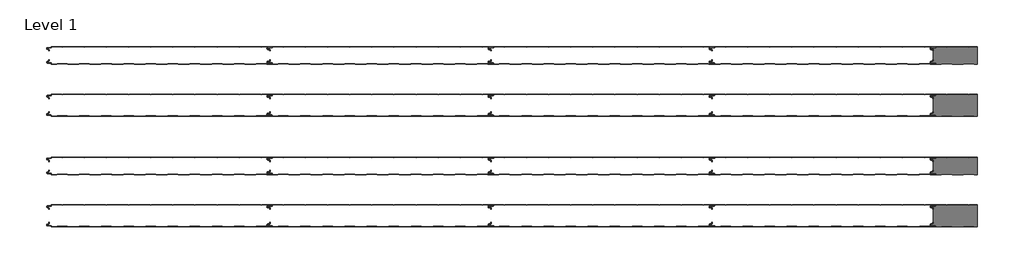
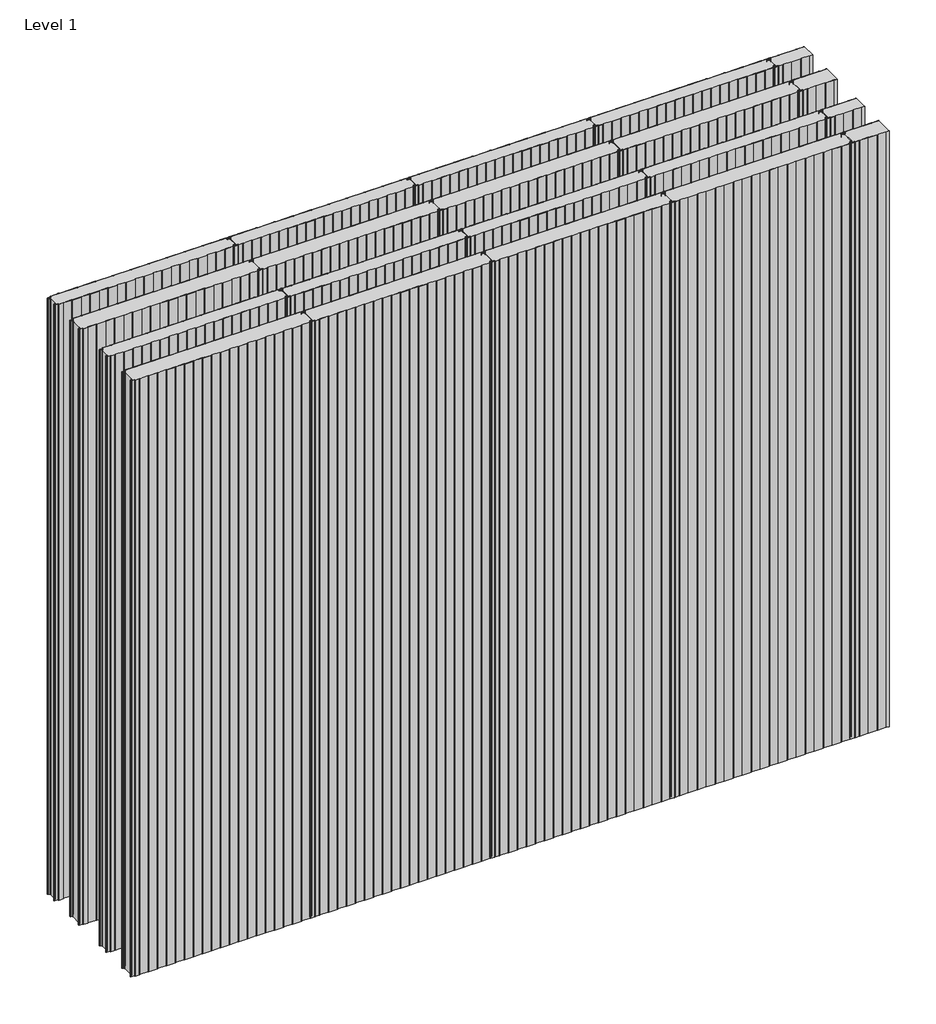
# One storey: 20 plates.
"""IFC4 building model written with IfcOpenShell, lengths in millimetres."""

from ifc_helpers import new_model, si_unit, origin, place, context, project, spatial, transform, mapped, element, save
from components import acoustic_screens_and_barriers_pane_curtain_panel_ach_03b74a93, acoustic_screens_and_barriers_pane_curtain_panel_ach_00faa93f, acoustic_screens_and_barriers_pane_curtain_panel_ach_dfdb3345, acoustic_screens_and_barriers_pane_curtain_panel_ach_0afa90e4

model = new_model("IFC4")

# Units and contexts
model_context = context("Model", 3, world=origin())
ifc_project = project(units=[si_unit("LENGTHUNIT", "METRE", prefix="MILLI")], contexts=[model_context])

# Site, building, storey
site = spatial("IfcSite", under=ifc_project)
building = spatial("IfcBuilding", under=site)
storey = spatial("IfcBuildingStorey", under=building, Name="Level 1", Elevation=0.0)

# Plates
placement = place(None, origin())
acoustic_screens_and_barriers_pane_curtain_panel_ach_shape = acoustic_screens_and_barriers_pane_curtain_panel_ach_03b74a93(model_context)
element("IfcPlate", 1, ObjectType="Acoustic-Screens-And-Barriers-Pane_Curtain-Panel : ACH_Acoustic-Screens-And-Barriers-Panel_Superwind_80mm", at=placement, inside=storey, context=model_context, shape_type="MappedRepresentation", body=[
    mapped(acoustic_screens_and_barriers_pane_curtain_panel_ach_shape, transform((-10804.4132588, 520.6868121, 0.0), x_axis=(1.0, 0.0, 0.0), y_axis=(0.0, 1.0, 0.0), z_axis=(0.0, 0.0, 1.0))),
])
element("IfcPlate", 2, ObjectType="Acoustic-Screens-And-Barriers-Pane_Curtain-Panel : ACH_Acoustic-Screens-And-Barriers-Panel_Superwind_80mm", at=placement, inside=storey, context=model_context, shape_type="MappedRepresentation", body=[
    mapped(acoustic_screens_and_barriers_pane_curtain_panel_ach_shape, transform((-9804.4132588, 520.6868121, 0.0), x_axis=(1.0, 0.0, 0.0), y_axis=(0.0, 1.0, 0.0), z_axis=(0.0, 0.0, 1.0))),
])
element("IfcPlate", 3, ObjectType="Acoustic-Screens-And-Barriers-Pane_Curtain-Panel : ACH_Acoustic-Screens-And-Barriers-Panel_Superwind_80mm", at=placement, inside=storey, context=model_context, shape_type="MappedRepresentation", body=[
    mapped(acoustic_screens_and_barriers_pane_curtain_panel_ach_shape, transform((-8804.4132588, 520.6868121, 0.0), x_axis=(1.0, 0.0, 0.0), y_axis=(0.0, 1.0, 0.0), z_axis=(0.0, 0.0, 1.0))),
])
element("IfcPlate", 4, ObjectType="Acoustic-Screens-And-Barriers-Pane_Curtain-Panel : ACH_Acoustic-Screens-And-Barriers-Panel_Superwind_80mm", at=placement, inside=storey, context=model_context, shape_type="MappedRepresentation", body=[
    mapped(acoustic_screens_and_barriers_pane_curtain_panel_ach_shape, transform((-7804.4132588, 520.6868121, 0.0), x_axis=(1.0, 0.0, 0.0), y_axis=(0.0, 1.0, 0.0), z_axis=(0.0, 0.0, 1.0))),
])
acoustic_screens_and_barriers_pane_curtain_panel_ach_2_shape = acoustic_screens_and_barriers_pane_curtain_panel_ach_00faa93f(model_context)
element("IfcPlate", 5, ObjectType="Acoustic-Screens-And-Barriers-Pane_Curtain-Panel : ACH_Acoustic-Screens-And-Barriers-Panel_Superwind_100mm", at=placement, inside=storey, context=model_context, shape_type="MappedRepresentation", body=[
    mapped(acoustic_screens_and_barriers_pane_curtain_panel_ach_2_shape, transform((-10804.4132588, 304.8868121, 0.0), x_axis=(1.0, 0.0, 0.0), y_axis=(0.0, 1.0, 0.0), z_axis=(0.0, 0.0, 1.0))),
])
element("IfcPlate", 6, ObjectType="Acoustic-Screens-And-Barriers-Pane_Curtain-Panel : ACH_Acoustic-Screens-And-Barriers-Panel_Superwind_100mm", at=placement, inside=storey, context=model_context, shape_type="MappedRepresentation", body=[
    mapped(acoustic_screens_and_barriers_pane_curtain_panel_ach_2_shape, transform((-9804.4132588, 304.8868121, 0.0), x_axis=(1.0, 0.0, 0.0), y_axis=(0.0, 1.0, 0.0), z_axis=(0.0, 0.0, 1.0))),
])
element("IfcPlate", 7, ObjectType="Acoustic-Screens-And-Barriers-Pane_Curtain-Panel : ACH_Acoustic-Screens-And-Barriers-Panel_Superwind_100mm", at=placement, inside=storey, context=model_context, shape_type="MappedRepresentation", body=[
    mapped(acoustic_screens_and_barriers_pane_curtain_panel_ach_2_shape, transform((-8804.4132588, 304.8868121, 0.0), x_axis=(1.0, 0.0, 0.0), y_axis=(0.0, 1.0, 0.0), z_axis=(0.0, 0.0, 1.0))),
])
element("IfcPlate", 8, ObjectType="Acoustic-Screens-And-Barriers-Pane_Curtain-Panel : ACH_Acoustic-Screens-And-Barriers-Panel_Superwind_100mm", at=placement, inside=storey, context=model_context, shape_type="MappedRepresentation", body=[
    mapped(acoustic_screens_and_barriers_pane_curtain_panel_ach_2_shape, transform((-7804.4132588, 304.8868121, 0.0), x_axis=(1.0, 0.0, 0.0), y_axis=(0.0, 1.0, 0.0), z_axis=(0.0, 0.0, 1.0))),
])
acoustic_screens_and_barriers_pane_curtain_panel_ach_3_shape = acoustic_screens_and_barriers_pane_curtain_panel_ach_dfdb3345(model_context)
element("IfcPlate", 9, ObjectType="Acoustic-Screens-And-Barriers-Pane_Curtain-Panel : ACH_Acoustic-Screens-And-Barriers-Panel_Superwind_80mm", at=placement, inside=storey, context=model_context, shape_type="MappedRepresentation", body=[
    mapped(acoustic_screens_and_barriers_pane_curtain_panel_ach_3_shape, transform((-7204.4132588, 520.6868121, 0.0), x_axis=(1.0, 0.0, 0.0), y_axis=(0.0, 1.0, 0.0), z_axis=(0.0, 0.0, 1.0))),
])
acoustic_screens_and_barriers_pane_curtain_panel_ach_4_shape = acoustic_screens_and_barriers_pane_curtain_panel_ach_0afa90e4(model_context)
element("IfcPlate", 10, ObjectType="Acoustic-Screens-And-Barriers-Pane_Curtain-Panel : ACH_Acoustic-Screens-And-Barriers-Panel_Superwind_100mm", at=placement, inside=storey, context=model_context, shape_type="MappedRepresentation", body=[
    mapped(acoustic_screens_and_barriers_pane_curtain_panel_ach_4_shape, transform((-7204.4132588, 304.8868121, 0.0), x_axis=(1.0, 0.0, 0.0), y_axis=(0.0, 1.0, 0.0), z_axis=(0.0, 0.0, 1.0))),
])
element("IfcPlate", 11, ObjectType="Acoustic-Screens-And-Barriers-Pane_Curtain-Panel : ACH_Acoustic-Screens-And-Barriers-Panel_Standard_100mm", at=placement, inside=storey, context=model_context, shape_type="MappedRepresentation", body=[
    mapped(acoustic_screens_and_barriers_pane_curtain_panel_ach_2_shape, transform((-10804.4132588, 804.8868121, 0.0), x_axis=(1.0, 0.0, 0.0), y_axis=(0.0, 1.0, 0.0), z_axis=(0.0, 0.0, 1.0))),
])
element("IfcPlate", 12, ObjectType="Acoustic-Screens-And-Barriers-Pane_Curtain-Panel : ACH_Acoustic-Screens-And-Barriers-Panel_Standard_100mm", at=placement, inside=storey, context=model_context, shape_type="MappedRepresentation", body=[
    mapped(acoustic_screens_and_barriers_pane_curtain_panel_ach_2_shape, transform((-9804.4132588, 804.8868121, 0.0), x_axis=(1.0, 0.0, 0.0), y_axis=(0.0, 1.0, 0.0), z_axis=(0.0, 0.0, 1.0))),
])
element("IfcPlate", 13, ObjectType="Acoustic-Screens-And-Barriers-Pane_Curtain-Panel : ACH_Acoustic-Screens-And-Barriers-Panel_Standard_100mm", at=placement, inside=storey, context=model_context, shape_type="MappedRepresentation", body=[
    mapped(acoustic_screens_and_barriers_pane_curtain_panel_ach_2_shape, transform((-8804.4132588, 804.8868121, 0.0), x_axis=(1.0, 0.0, 0.0), y_axis=(0.0, 1.0, 0.0), z_axis=(0.0, 0.0, 1.0))),
])
element("IfcPlate", 14, ObjectType="Acoustic-Screens-And-Barriers-Pane_Curtain-Panel : ACH_Acoustic-Screens-And-Barriers-Panel_Standard_100mm", at=placement, inside=storey, context=model_context, shape_type="MappedRepresentation", body=[
    mapped(acoustic_screens_and_barriers_pane_curtain_panel_ach_2_shape, transform((-7804.4132588, 804.8868121, 0.0), x_axis=(1.0, 0.0, 0.0), y_axis=(0.0, 1.0, 0.0), z_axis=(0.0, 0.0, 1.0))),
])
element("IfcPlate", 15, ObjectType="Acoustic-Screens-And-Barriers-Pane_Curtain-Panel : ACH_Acoustic-Screens-And-Barriers-Panel_Standard_100mm", at=placement, inside=storey, context=model_context, shape_type="MappedRepresentation", body=[
    mapped(acoustic_screens_and_barriers_pane_curtain_panel_ach_4_shape, transform((-7204.4132588, 804.8868121, 0.0), x_axis=(1.0, 0.0, 0.0), y_axis=(0.0, 1.0, 0.0), z_axis=(0.0, 0.0, 1.0))),
])
element("IfcPlate", 16, ObjectType="Acoustic-Screens-And-Barriers-Pane_Curtain-Panel : ACH_Acoustic-Screens-And-Barriers-Panel_Standard_80mm", at=placement, inside=storey, context=model_context, shape_type="MappedRepresentation", body=[
    mapped(acoustic_screens_and_barriers_pane_curtain_panel_ach_shape, transform((-10804.4132588, 1020.6868121, 0.0), x_axis=(1.0, 0.0, 0.0), y_axis=(0.0, 1.0, 0.0), z_axis=(0.0, 0.0, 1.0))),
])
element("IfcPlate", 17, ObjectType="Acoustic-Screens-And-Barriers-Pane_Curtain-Panel : ACH_Acoustic-Screens-And-Barriers-Panel_Standard_80mm", at=placement, inside=storey, context=model_context, shape_type="MappedRepresentation", body=[
    mapped(acoustic_screens_and_barriers_pane_curtain_panel_ach_shape, transform((-9804.4132588, 1020.6868121, 0.0), x_axis=(1.0, 0.0, 0.0), y_axis=(0.0, 1.0, 0.0), z_axis=(0.0, 0.0, 1.0))),
])
element("IfcPlate", 18, ObjectType="Acoustic-Screens-And-Barriers-Pane_Curtain-Panel : ACH_Acoustic-Screens-And-Barriers-Panel_Standard_80mm", at=placement, inside=storey, context=model_context, shape_type="MappedRepresentation", body=[
    mapped(acoustic_screens_and_barriers_pane_curtain_panel_ach_shape, transform((-8804.4132588, 1020.6868121, 0.0), x_axis=(1.0, 0.0, 0.0), y_axis=(0.0, 1.0, 0.0), z_axis=(0.0, 0.0, 1.0))),
])
element("IfcPlate", 19, ObjectType="Acoustic-Screens-And-Barriers-Pane_Curtain-Panel : ACH_Acoustic-Screens-And-Barriers-Panel_Standard_80mm", at=placement, inside=storey, context=model_context, shape_type="MappedRepresentation", body=[
    mapped(acoustic_screens_and_barriers_pane_curtain_panel_ach_shape, transform((-7804.4132588, 1020.6868121, 0.0), x_axis=(1.0, 0.0, 0.0), y_axis=(0.0, 1.0, 0.0), z_axis=(0.0, 0.0, 1.0))),
])
element("IfcPlate", 20, ObjectType="Acoustic-Screens-And-Barriers-Pane_Curtain-Panel : ACH_Acoustic-Screens-And-Barriers-Panel_Standard_80mm", at=placement, inside=storey, context=model_context, shape_type="MappedRepresentation", body=[
    mapped(acoustic_screens_and_barriers_pane_curtain_panel_ach_3_shape, transform((-7204.4132588, 1020.6868121, 0.0), x_axis=(1.0, 0.0, 0.0), y_axis=(0.0, 1.0, 0.0), z_axis=(0.0, 0.0, 1.0))),
])

save(model, "model.ifc")
